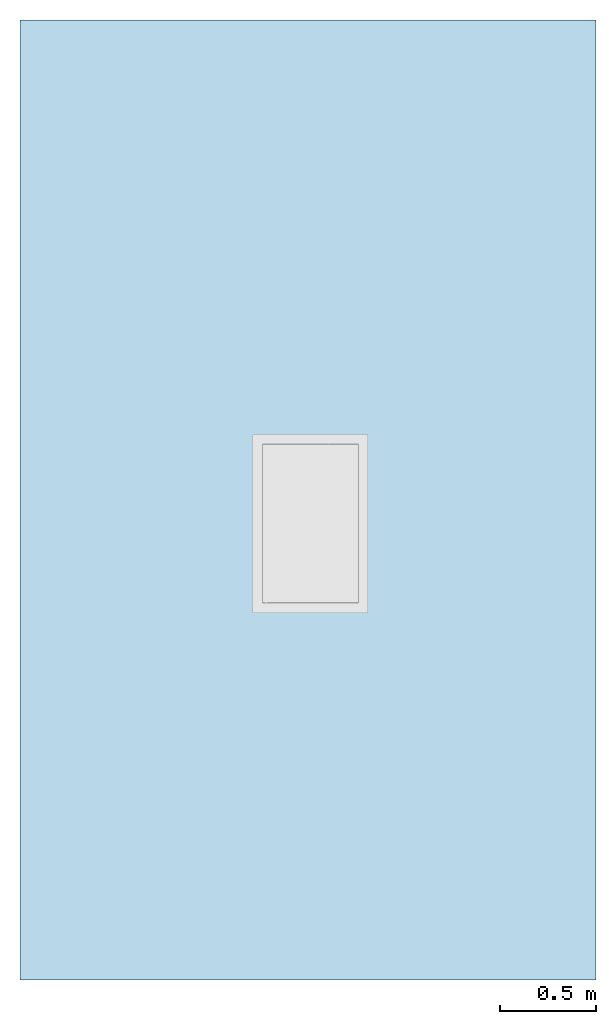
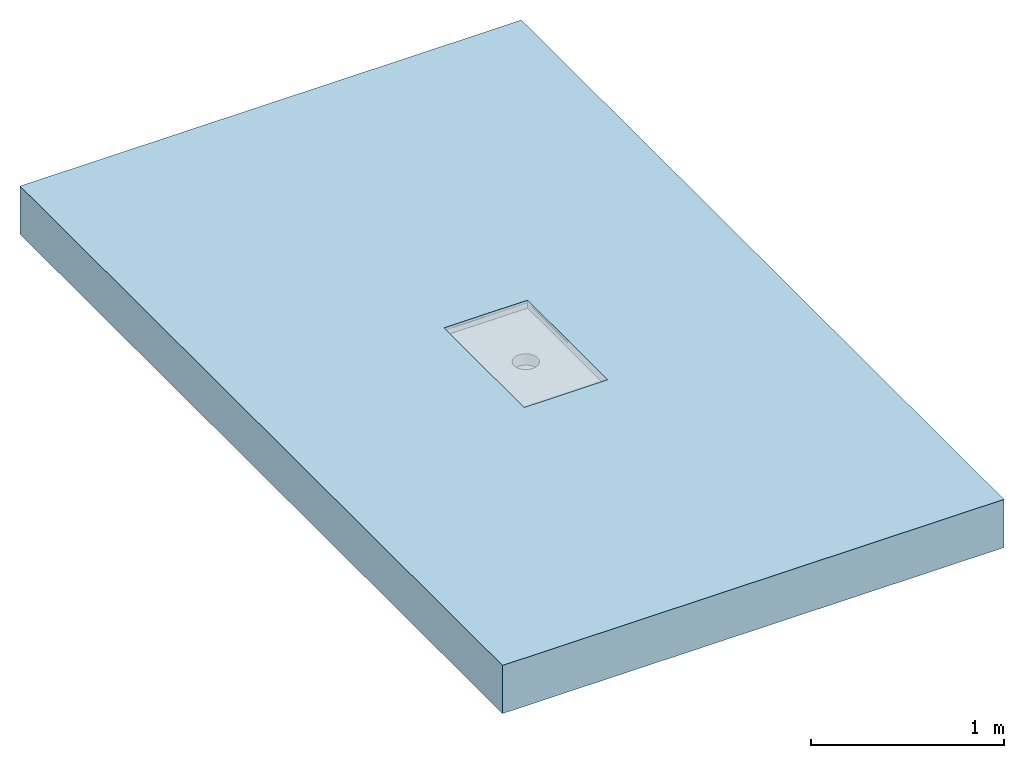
# One storey, incomplete: 1 slab, 1 opening.
"""IFC2X3 building model written with IfcOpenShell, lengths in millimetres."""

from ifc_helpers import new_model, entity, si_unit, converted_unit, derived_unit, direction, frame, frame_2d, origin, place, context, subcontext, project, spatial, rectangle, extrude, faceted_brep, material, layer, layer_set, layer_usage, element, save


model = new_model("IFC2X3")

# Units and contexts
model_context = context("Model", 3, precision=1e-05, world=origin(), true_north=direction((2.0, 6.12303176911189e-17, 1.0)))
context_of_model = context(None, 3, precision=1e-05, world=origin(), true_north=direction((2.0, 6.12303176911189e-17, 1.0)))
body_context = subcontext(model_context, "Body", "Model", "MODEL_VIEW")
ifc_project = project(units=[si_unit("LENGTHUNIT", "METRE", prefix="MILLI"), converted_unit("AREAUNIT", "SQUARE FOOT", entity("IfcRatioMeasure", 0.09290304), si_unit("AREAUNIT", "SQUARE_METRE"), dimensions=[2, 0, 0, 0, 0, 0, 0]), converted_unit("VOLUMEUNIT", "CUBIC FOOT", entity("IfcRatioMeasure", 0.028316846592), si_unit("VOLUMEUNIT", "CUBIC_METRE"), dimensions=[3, 0, 0, 0, 0, 0, 0]), converted_unit("PLANEANGLEUNIT", "DEGREE", entity("IfcRatioMeasure", 0.0174532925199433), si_unit("PLANEANGLEUNIT", "RADIAN"), dimensions=[0, 0, 0, 0, 0, 0, 0]), si_unit("MASSUNIT", "GRAM", prefix="KILO"), si_unit("TIMEUNIT", "SECOND"), si_unit("THERMODYNAMICTEMPERATUREUNIT", "KELVIN"), derived_unit("THERMALTRANSMITTANCEUNIT", [(si_unit("MASSUNIT", "GRAM", prefix="KILO"), 1), (si_unit("THERMODYNAMICTEMPERATUREUNIT", "KELVIN"), -1), (si_unit("TIMEUNIT", "SECOND"), -3)]), derived_unit("VOLUMETRICFLOWRATEUNIT", [(si_unit("LENGTHUNIT", "METRE"), 3), (si_unit("TIMEUNIT", "SECOND"), -1)]), si_unit("POWERUNIT", "WATT")], contexts=[model_context, context_of_model])

# Site, building, storey
site_placement = place(None, origin())
site = spatial("IfcSite", under=ifc_project, at=site_placement, Name="Default", CompositionType="ELEMENT")
building_placement = place(site_placement, origin())
building = spatial("IfcBuilding", under=site, at=building_placement, CompositionType="ELEMENT")
storey_placement = place(building_placement, origin())
storey = spatial("IfcBuildingStorey", under=building, at=storey_placement, Name="Level 1", CompositionType="ELEMENT", Elevation=0.0)

# Slab, opening
ifc_material = material(Name="Default Floor")
ifc_layer = layer(ifc_material, 304.8)
ifc_layer_set = layer_set([ifc_layer], Name="Floor:Generic - 12\"")
ifc_layer_usage = layer_usage(ifc_layer_set, "AXIS3", "POSITIVE", 0.0)
slab_placement = place(storey_placement, frame((-2592.42688678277, 381.838531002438, -304.8)))
slab = element("IfcSlab", 1, at=slab_placement, inside=storey, material=ifc_layer_usage, Name="Floor:Generic - 12\"", ObjectType="Floor:Generic - 12\"", PredefinedType="FLOOR", context=body_context, shape_type="SweptSolid", body=[
    extrude(rectangle(XDim=5000.0, YDim=3000.0, at=frame_2d((0.0, 0.0), x_axis=(0.0, -1.0))), frame((1500.0, 2500.0, 304.8), z_axis=(0.0, 0.0, -1.0), x_axis=(-1.0, 0.0, 0.0)), (0.0, 0.0, 1.0), 304.8),
])
opening_placement = place(slab_placement, frame((1212.12459262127, 1912.32393714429, 184.151793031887)))
element("IfcOpeningElement", 2, at=opening_placement, cuts=slab, ObjectType="Recess", context=body_context, shape_type="Brep", body=[
    faceted_brep([(549.667309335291, 50.0, 104.148206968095), (549.667309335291, 50.0, 70.6482069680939), (549.667309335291, 880.0, 70.6482069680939), (549.667309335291, 880.0, 104.148206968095), (50.0, 50.0, 105.648206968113), (50.0, 50.0, 120.648206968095), (50.0, 880.0, 120.648206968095), (50.0, 880.0, 105.648206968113), (50.0, 50.0, 70.6482069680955), (50.0, 50.0, 104.148206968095), (50.0, 880.0, 104.148206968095), (50.0, 880.0, 70.6482069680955), (549.667309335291, 50.0, 120.648206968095), (549.667309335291, 50.0, 105.648206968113), (549.667309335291, 880.0, 105.648206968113), (549.667309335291, 880.0, 120.648206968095), (264.333654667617, 403.512196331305, 70.6482069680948), (281.457502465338, 396.419266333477, 70.6482069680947), (249.629073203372, 414.795418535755, 70.6482069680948), (299.833654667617, 394.0, 70.6482069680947), (228.833654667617, 465.0, 70.6482069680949), (231.252921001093, 446.623847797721, 70.6482069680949), (238.345850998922, 429.5, 70.6482069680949), (318.209806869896, 396.419266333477, 70.6482069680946), (335.333654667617, 403.512196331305, 70.6482069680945), (350.038236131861, 414.795418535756, 70.6482069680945), (361.321458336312, 429.500000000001, 70.6482069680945), (368.41438833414, 446.623847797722, 70.6482069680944), (370.833654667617, 465.0, 70.6482069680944), (238.345850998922, 500.500000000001, 70.6482069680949), (231.252921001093, 483.37615220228, 70.6482069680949), (249.629073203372, 515.204581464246, 70.6482069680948), (264.333654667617, 526.487803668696, 70.6482069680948), (281.457502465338, 533.580733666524, 70.6482069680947), (299.833654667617, 536.0, 70.6482069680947), (368.41438833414, 483.376152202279, 70.6482069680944), (361.321458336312, 500.5, 70.6482069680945), (335.333654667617, 526.487803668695, 70.6482069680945), (318.209806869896, 533.580733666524, 70.6482069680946), (350.038236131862, 515.204581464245, 70.6482069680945), (249.629073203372, 414.795418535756, 0.0), (299.833654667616, 394.0, 0.0), (281.457502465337, 396.419266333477, 0.0), (264.333654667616, 403.512196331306, 0.0), (238.345850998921, 429.500000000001, 0.0), (231.252921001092, 446.623847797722, 0.0), (264.333654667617, 526.487803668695, 0.0), (350.038236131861, 414.795418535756, 0.0), (335.333654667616, 526.487803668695, 0.0), (335.333654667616, 403.512196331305, 0.0), (318.209806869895, 396.419266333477, 0.0), (361.321458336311, 429.500000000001, 0.0), (361.321458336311, 500.5, 0.0), (368.41438833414, 446.623847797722, 0.0), (370.833654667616, 465.0, 0.0), (368.41438833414, 483.376152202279, 0.0), (231.252921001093, 483.37615220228, 0.0), (238.345850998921, 500.5, 0.0), (249.629073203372, 515.204581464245, 0.0), (281.457502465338, 533.580733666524, 0.0), (318.209806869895, 533.580733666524, 0.0), (350.038236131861, 515.204581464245, 0.0), (299.833654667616, 536.0, 0.0), (228.833654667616, 465.0, 0.0), (0.0, 0.0, 104.148206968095), (599.667309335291, 0.0, 104.148206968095), (0.0, 930.0, 104.148206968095), (599.667309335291, 930.0, 104.148206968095), (0.0, 930.0, 105.648206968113), (599.667309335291, 930.0, 105.648206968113), (0.0, 0.0, 105.648206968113), (599.667309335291, 0.0, 105.648206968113)], [[[0, 1, 2]], [[2, 3, 0]], [[4, 5, 6]], [[6, 7, 4]], [[8, 9, 10]], [[10, 11, 8]], [[12, 13, 14]], [[14, 15, 12]], [[7, 6, 15]], [[15, 14, 7]], [[11, 10, 3]], [[3, 2, 11]], [[1, 0, 8]], [[9, 8, 0]], [[13, 12, 5]], [[5, 4, 13]], [[5, 12, 15]], [[15, 6, 5]], [[8, 16, 17]], [[16, 8, 18]], [[8, 17, 19]], [[20, 21, 8]], [[22, 18, 8]], [[21, 22, 8]], [[8, 11, 20]], [[1, 19, 23]], [[19, 1, 8]], [[1, 23, 24]], [[24, 25, 1]], [[26, 27, 1]], [[25, 26, 1]], [[1, 27, 28]], [[29, 30, 11]], [[31, 29, 11]], [[32, 11, 33]], [[11, 32, 31]], [[34, 33, 11]], [[11, 2, 34]], [[30, 20, 11]], [[35, 36, 2]], [[28, 35, 2]], [[37, 38, 2]], [[39, 2, 36]], [[2, 39, 37]], [[38, 34, 2]], [[28, 2, 1]], [[40, 41, 42]], [[40, 42, 43]], [[40, 44, 45]], [[41, 40, 46]], [[47, 41, 48]], [[41, 49, 50]], [[41, 47, 49]], [[51, 52, 53]], [[54, 53, 55]], [[52, 51, 47]], [[45, 56, 40]], [[56, 57, 40]], [[40, 57, 58]], [[46, 59, 41]], [[40, 58, 46]], [[60, 41, 59]], [[52, 48, 61]], [[52, 55, 53]], [[60, 48, 41]], [[47, 48, 52]], [[62, 60, 59]], [[56, 45, 63]], [[36, 52, 61]], [[37, 48, 60]], [[61, 48, 39]], [[38, 60, 62]], [[28, 55, 35]], [[55, 28, 54]], [[35, 55, 36]], [[55, 52, 36]], [[61, 39, 36]], [[37, 39, 48]], [[60, 38, 37]], [[62, 34, 38]], [[33, 59, 46]], [[58, 32, 46]], [[29, 57, 56]], [[58, 57, 31]], [[30, 56, 63]], [[59, 33, 34]], [[46, 32, 33]], [[58, 31, 32]], [[57, 29, 31]], [[30, 29, 56]], [[63, 20, 30]], [[59, 34, 62]], [[45, 21, 63]], [[44, 22, 45]], [[42, 41, 17]], [[40, 18, 44]], [[45, 22, 21]], [[21, 20, 63]], [[16, 43, 17]], [[16, 18, 40]], [[43, 42, 17]], [[18, 22, 44]], [[40, 43, 16]], [[41, 19, 17]], [[23, 50, 49]], [[47, 24, 49]], [[26, 51, 53]], [[47, 51, 25]], [[27, 53, 54]], [[50, 23, 19]], [[49, 24, 23]], [[47, 25, 24]], [[51, 26, 25]], [[27, 26, 53]], [[54, 28, 27]], [[50, 19, 41]], [[64, 9, 0]], [[9, 64, 10]], [[65, 0, 3]], [[0, 65, 64]], [[10, 66, 3]], [[66, 10, 64]], [[3, 67, 65]], [[67, 3, 66]], [[68, 7, 14]], [[7, 68, 4]], [[69, 14, 13]], [[14, 69, 68]], [[4, 70, 13]], [[70, 4, 68]], [[13, 71, 69]], [[71, 13, 70]], [[70, 68, 66]], [[66, 64, 70]], [[71, 70, 64]], [[64, 65, 71]], [[69, 71, 65]], [[65, 67, 69]], [[68, 69, 67]], [[67, 66, 68]]]),
])

save(model, "model.ifc")
